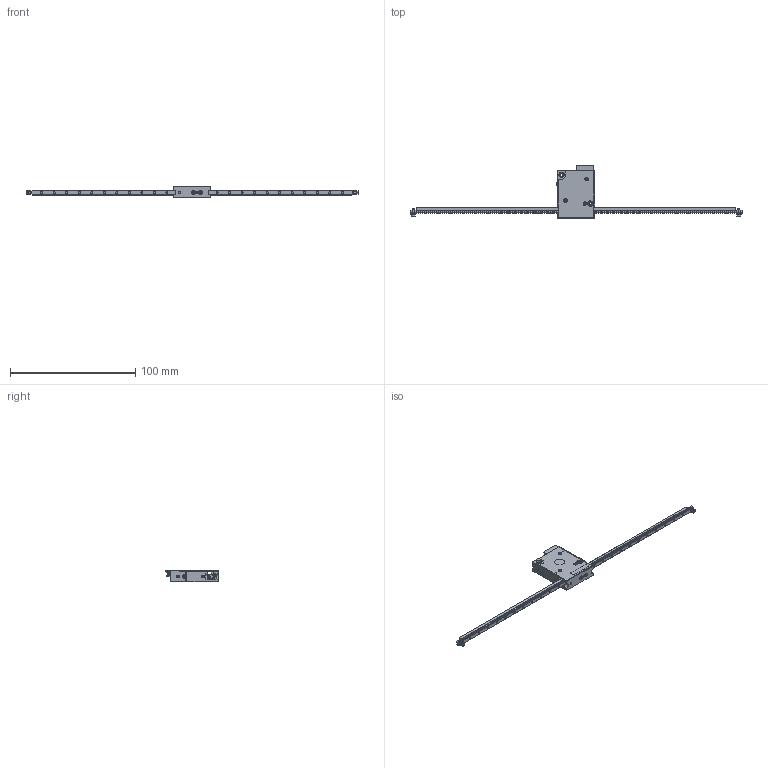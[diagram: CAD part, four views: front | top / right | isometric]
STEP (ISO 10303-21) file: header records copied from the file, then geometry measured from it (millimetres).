
FILE_DESCRIPTION(/* description */ (''),/* implementation_level */ '2;1');
FILE_NAME(/* name */ 'XLA_3_265_assy_F2.stp',/* time_stamp */ '2024-01-30T16:31:21+01:00',/* author */ (''),/* organization */ (''),/* preprocessor_version */ 'ST-DEVELOPER v16',/* originating_system */ 'SIEMENS PLM Software NX 10.0',/* authorisation */ '');
FILE_SCHEMA (('AUTOMOTIVE_DESIGN { 1 0 10303 214 3 1 1 1 }'));
Products named in the file (22): 525591452_stp; 525591252_stp; 527451497_Gold; 527451297_Gold; O-ring_Di1_Do3; rondsel_DIN433_M1_6; XLA_3_damping_foil_255_B; Bout_M1_6_L5; linear_encoder_255; ceramic_ruler_W3_T2_L255; rail-0265_step; Part1_carriage; Part2_carriage; CSPPN1P-ST3W-M2-1_5_214_step; XLA_3_cover_A; CSPPN1P-ST3W-M2-3_214_step; PACK-SMIB1.6-3_stp; XLA_3_body_E2; XLA_3_top_PCB_B; XLA_3_tractielat_265_B; carriage; XLA_3_265_assy_F2
Assembly tree (30 placements, depth 3):
  XLA_3_265_assy_F2
    carriage
      Part2_carriage  x2
      Part1_carriage
    XLA_3_body_E2
    XLA_3_tractielat_265_B
      rail-0265_step
      ceramic_ruler_W3_T2_L255
      linear_encoder_255
      Bout_M1_6_L5  x2
      XLA_3_damping_foil_255_B
      rondsel_DIN433_M1_6  x4
      O-ring_Di1_Do3  x2
    XLA_3_top_PCB_B
      527451297_Gold
      527451497_Gold
      525591252_stp
      525591452_stp
    PACK-SMIB1.6-3_stp  x3
    CSPPN1P-ST3W-M2-3_214_step  x2
    XLA_3_cover_A
    CSPPN1P-ST3W-M2-1_5_214_step
Bounding box: 265 x 42 x 9.45 mm (x, y, z)
Volume: 13035.5 mm3; surface area: 19662.2 mm2
Topology: 28 solids, 28 shells, 2905 faces, 8453 edges, 5530 vertices
Faces by surface type: plane 2340, cylinder 437, cone 52, sphere 36, torus 31, bspline 9
Full cylindrical faces by diameter (mm): 1 x2, 1.25 x3, 1.6 x8, 1.7 x4, 1.8 x3, 2.135 x2, 2.2 x2, 2.4 x3, 2.8 x3, 3 x2, 3.4 x2, 3.5 x4, 4.4 x4, 8 x1
Entity records: 94389 total; most frequent: CARTESIAN_POINT 20049, ORIENTED_EDGE 15874, DIRECTION 14381, EDGE_CURVE 7937, LINE 6955, VECTOR 6955, VERTEX_POINT 5242, AXIS2_PLACEMENT_3D 3713
